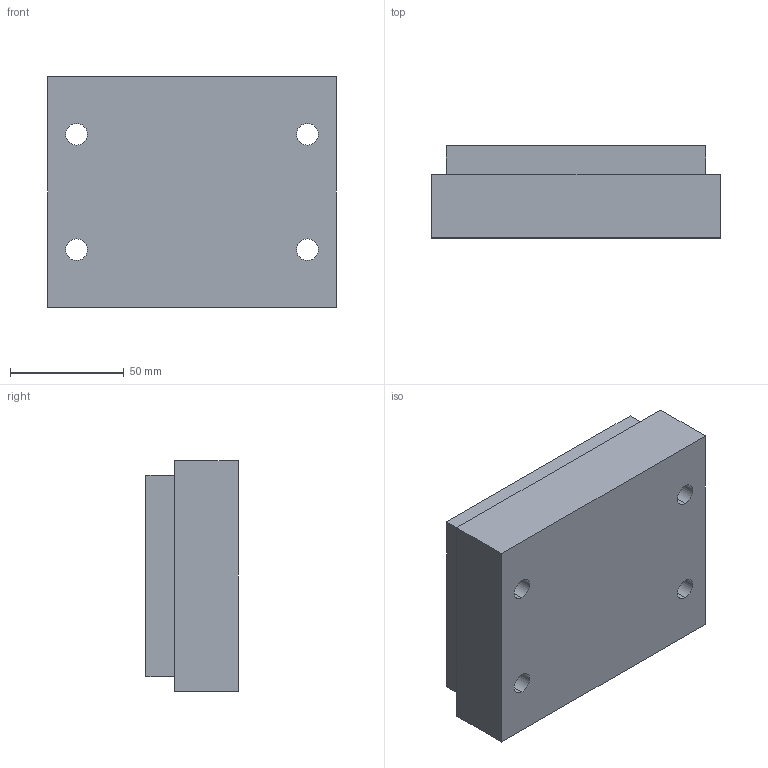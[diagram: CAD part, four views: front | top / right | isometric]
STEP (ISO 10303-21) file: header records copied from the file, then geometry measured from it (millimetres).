
FILE_DESCRIPTION (( 'STEP AP214' ), '1' );
FILE_NAME ('Laser Base.STEP', '2023-11-20T17:29:25', ( '' ), ( '' ), 'SwSTEP 2.0', 'SolidWorks 2023', '' );
FILE_SCHEMA (( 'AUTOMOTIVE_DESIGN' ));
Length unit declared in the file: inch
Products named in the file (1): Laser Base
Bounding box: 127 x 40.64 x 101.6 mm (x, y, z)
Volume: 460700.1 mm3; surface area: 54135.6 mm2
Topology: 1 solids, 1 shells, 79 faces, 209 edges, 121 vertices
Faces by surface type: cylinder 36, cone 22, plane 21
Entity records: 2406 total; most frequent: CARTESIAN_POINT 492, DIRECTION 401, ORIENTED_EDGE 374, EDGE_CURVE 187, AXIS2_PLACEMENT_3D 146, VERTEX_POINT 121, VECTOR 109, LINE 109
